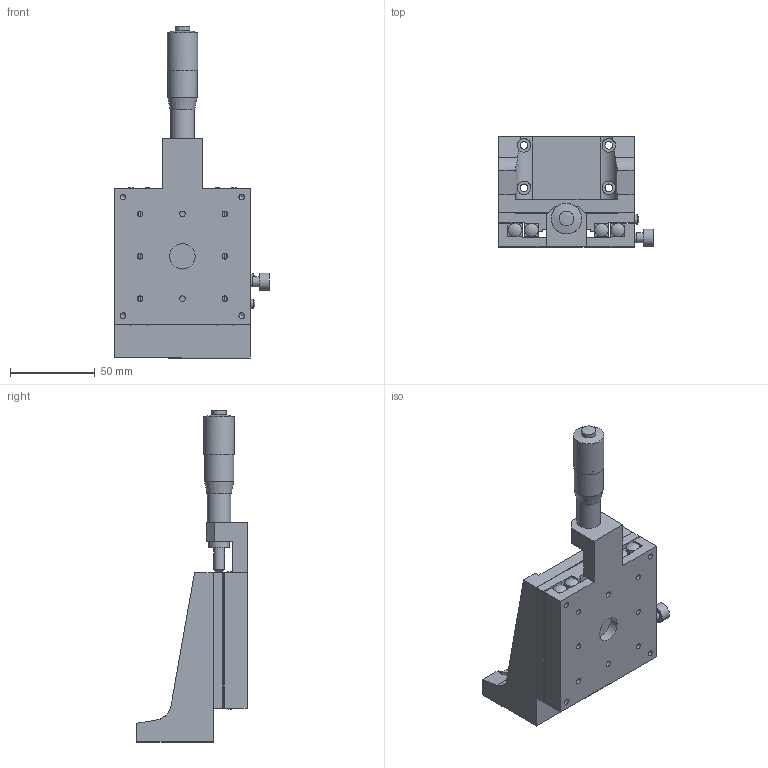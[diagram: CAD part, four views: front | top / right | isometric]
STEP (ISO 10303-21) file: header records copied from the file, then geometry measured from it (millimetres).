
FILE_DESCRIPTION( ( 'STEP AP214' ), '1' );
FILE_NAME( 'C:/Project/3D_B31-80A-配布-070508.stp', '2007-05-08T10:43:19', ( ' ' ), ( ' ' ), 'XStep 1.0', ' ', ' ' );
FILE_SCHEMA( ( 'automotive_design' ) );
Length unit declared in the file: millimetre
Products named in the file (4): 1; 2; 3; 4
Bounding box: 91.3 x 65 x 195.87 mm (x, y, z)
Volume: 242187.6 mm3; surface area: 77739.5 mm2
Topology: 4 solids, 4 shells, 190 faces, 505 edges, 337 vertices
Faces by surface type: plane 112, cylinder 53, cone 13, sphere 12
Full cylindrical faces by diameter (mm): 3 x1, 3.3 x12, 4.5 x4, 5.6 x2, 6 x2, 6.35 x2, 7.998 x8, 8 x4, 8.6 x1, 10 x1, 12 x1, 14 x1, 15 x1, 16.8 x1, 17.2 x1, 18 x1
Entity records: 7295 total; most frequent: CARTESIAN_POINT 1260, DIRECTION 906, ORIENTED_EDGE 842, EDGE_CURVE 421, AXIS2_PLACEMENT_3D 309, VERTEX_POINT 307, LINE 288, VECTOR 288
